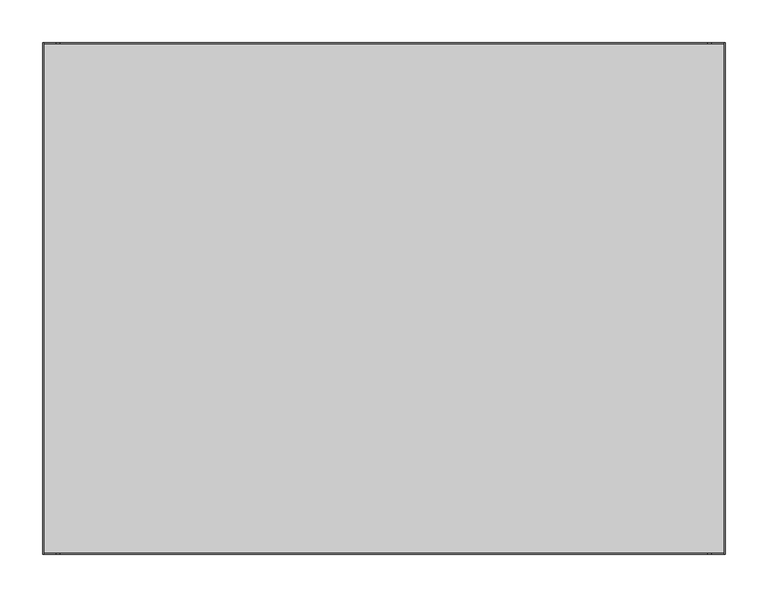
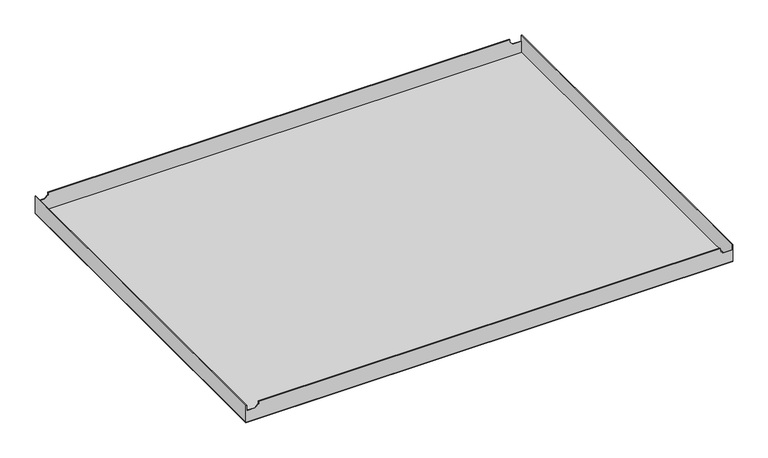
"""IFC4 building model written with IfcOpenShell, lengths in millimetres: proxy geometry, durlum_S1_RHOMBOS_panel : durlum_S1_RHOMBOS_panel_wall_length_cut."""

from ifc_helpers import new_model, si_unit, origin, origin_with_axes, place, context, project, spatial, polyline, outline, extrude, faceted_brep, source, transform, mapped, element, save


def generic_models_4f62446b(model_context):
    return source(origin(), model_context, "Body", "SolidModel", [
        faceted_brep([(-400.0, 300.0, 30.0), (-400.0, -300.0, 30.0), (-399.0, -300.0, 30.0), (-399.0, 300.0, 30.0), (400.0, -300.0, 30.0), (400.0, 300.0, 30.0), (399.0, 300.0, 30.0), (399.0, -300.0, 30.0), (-379.4, 300.0, 30.0), (-379.4, 299.0, 30.0), (379.0, 299.0, 30.0), (379.0, 300.0, 30.0), (-379.4, -299.0, 30.0), (-379.4, -300.0, 30.0), (379.0, -300.0, 30.0), (379.0, -299.0, 30.0), (400.0, 300.0, 1.0), (400.0, -300.0, 1.0), (-400.0, -300.0, 1.0), (-400.0, 300.0, 1.0), (399.0, 299.0, 1.0), (-399.0, 299.0, 1.0), (-399.0, -299.0, 1.0), (399.0, -299.0, 1.0), (-399.0, 300.0, 20.1669893), (-384.6658218, 300.0, 20.1669893), (-379.4, 300.0, 25.4328111), (379.0, 300.0, 25.4469988), (384.2800094, 300.0, 20.1669893), (399.0, 300.0, 20.1669893), (399.0, -300.0, 20.1669893), (384.2800094, -300.0, 20.1669893), (379.0, -300.0, 25.4469988), (-379.4, -300.0, 25.4328111), (-384.6658218, -300.0, 20.1669893), (-399.0, -300.0, 20.1669893), (399.0, 299.0, 20.1669893), (399.0, -299.0, 20.1669893), (-399.0, -299.0, 20.1669893), (-384.6658218, -299.0, 20.1669893), (-379.4, -299.0, 25.4328111), (379.0, -299.0, 25.4469988), (384.2800094, -299.0, 20.1669893), (-399.0, 299.0, 20.1669893), (384.2800094, 299.0, 20.1669893), (379.0, 299.0, 25.4469988), (-379.4, 299.0, 25.4328111), (-384.6658218, 299.0, 20.1669893)], [[[0, 1, 2, 3]], [[4, 5, 6, 7]], [[8, 9, 10, 11]], [[12, 13, 14, 15]], [[16, 17, 18, 19], [20, 21, 22, 23]], [[16, 19, 0, 3, 24, 25, 26, 8, 11, 27, 28, 29, 6, 5]], [[1, 0, 19, 18]], [[18, 17, 4, 7, 30, 31, 32, 14, 13, 33, 34, 35, 2, 1]], [[5, 4, 17, 16]], [[6, 29, 36, 20, 23, 37, 30, 7]], [[23, 22, 38, 39, 40, 12, 15, 41, 42, 37]], [[22, 21, 43, 24, 3, 2, 35, 38]], [[21, 20, 36, 44, 45, 10, 9, 46, 47, 43]], [[38, 35, 34, 39]], [[24, 43, 47, 25]], [[39, 34, 33, 40]], [[25, 47, 46, 26]], [[40, 33, 13, 12]], [[26, 46, 9, 8]], [[36, 29, 28, 44]], [[30, 37, 42, 31]], [[44, 28, 27, 45]], [[31, 42, 41, 32]], [[32, 41, 15, 14]], [[45, 27, 11, 10]]]),
        extrude(outline(polyline([(400.0, 300.0), (400.0, -300.0), (-400.0, -300.0), (-400.0, 300.0), (400.0, 300.0)])), origin_with_axes(), (0.0, 0.0, 1.0), 1.0),
    ])


if __name__ == "__main__":
    model = new_model("IFC4")
    model_context = context("Model", 3, world=origin())
    ifc_project = project(units=[si_unit("LENGTHUNIT", "METRE", prefix="MILLI")], contexts=[model_context])
    site = spatial("IfcSite", under=ifc_project)
    building = spatial("IfcBuilding", under=site)
    placement = place(None, origin())
    generic_models_shape = generic_models_4f62446b(model_context)
    element("IfcBuildingElementProxy", 1, Name="durlum_S1_RHOMBOS_panel : durlum_S1_RHOMBOS_panel_wall_length_cut", ObjectType="durlum_S1_RHOMBOS_panel : durlum_S1_RHOMBOS_panel_wall_length_cut", at=placement, inside=building, context=model_context, shape_type="MappedRepresentation", body=[
        mapped(generic_models_shape, transform((0.0, 0.0, 0.0), x_axis=(1.0, 0.0, 0.0), y_axis=(0.0, 1.0, 0.0), z_axis=(0.0, 0.0, 1.0))),
    ])
    save(model, "model.ifc")
